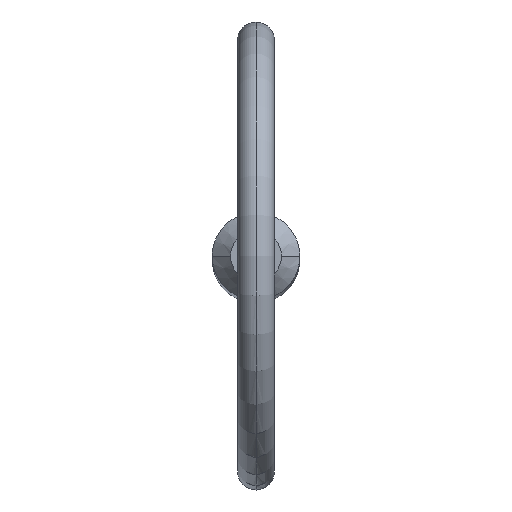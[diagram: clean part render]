
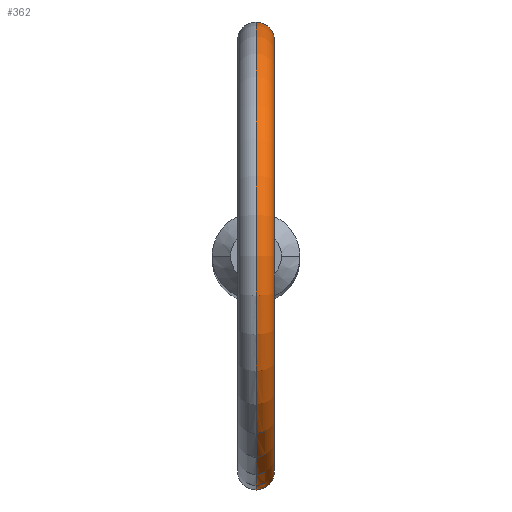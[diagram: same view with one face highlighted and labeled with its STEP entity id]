
A CAD part, top view. The second image highlights one B-rep face of the part: STEP entity #362.
In plain terms, the highlighted toroidal (fillet/blend) face has major radius 11.7 mm and minor radius 1 mm.
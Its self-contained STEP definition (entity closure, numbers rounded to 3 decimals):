
#6 = CARTESIAN_POINT ( 'NONE',  ( 0., 2.38, 86.625 ) ) ;
#11 = CARTESIAN_POINT ( 'NONE',  ( 0.513, -2.327, 86.748 ) ) ;
#13 = AXIS2_PLACEMENT_3D ( 'NONE', #179, #17, #99 ) ;
#15 = VERTEX_POINT ( 'NONE', #261 ) ;
#17 = DIRECTION ( 'NONE',  ( 1., 0., 0. ) ) ;
#25 = CARTESIAN_POINT ( 'NONE',  ( 0.996, 2.162, 87.764 ) ) ;
#38 = CARTESIAN_POINT ( 'NONE',  ( 0., -2.38, 88.668 ) ) ;
#43 = FACE_OUTER_BOUND ( 'NONE', #199, .T. ) ;
#45 = EDGE_CURVE ( 'NONE', #194, #15, #201, .T. ) ;
#46 = CARTESIAN_POINT ( 'NONE',  ( 0.268, -2.368, 86.651 ) ) ;
#47 = DIRECTION ( 'NONE',  ( 1., 0., 0. ) ) ;
#53 = CARTESIAN_POINT ( 'NONE',  ( 0.884, 2.21, 87.117 ) ) ;
#67 = CARTESIAN_POINT ( 'NONE',  ( 0.793, 2.246, 88.253 ) ) ;
#83 = TOROIDAL_SURFACE ( 'NONE', #13, 11.7, 1. ) ;
#86 = CARTESIAN_POINT ( 'NONE',  ( 0.625, -2.299, 86.821 ) ) ;
#87 = CARTESIAN_POINT ( 'NONE',  ( 0.981, -2.169, 87.364 ) ) ;
#99 = DIRECTION ( 'NONE',  ( 0., 0., -1. ) ) ;
#101 = CARTESIAN_POINT ( 'NONE',  ( 0., 2.38, 88.668 ) ) ;
#102 = ORIENTED_EDGE ( 'NONE', *, *, #186, .F. ) ;
#131 = CARTESIAN_POINT ( 'NONE',  ( 0.268, -2.368, 88.637 ) ) ;
#133 = CARTESIAN_POINT ( 'NONE',  ( 0., 0., 99.1 ) ) ;
#153 = DIRECTION ( 'NONE',  ( 0., 0., -1. ) ) ;
#161 = EDGE_CURVE ( 'NONE', #445, #163, #359, .T. ) ;
#163 = VERTEX_POINT ( 'NONE', #399 ) ;
#169 = CARTESIAN_POINT ( 'NONE',  ( 0.811, -2.24, 87.006 ) ) ;
#170 = B_SPLINE_CURVE_WITH_KNOTS ( 'NONE', 3,
 ( #38, #271, #131, #308, #337, #305, #206, #239, #307, #412, #87, #336, #169, #86, #11, #46, #204, #341 ),
 .UNSPECIFIED., .F., .F.,
 ( 4, 2, 2, 2, 2, 2, 2, 2, 4 ),
 ( 0.003, 0.003, 0.003, 0.004, 0.004, 0.005, 0.005, 0.005, 0.006 ),
 .UNSPECIFIED. ) ;
#172 = CARTESIAN_POINT ( 'NONE',  ( 0.625, 2.299, 86.821 ) ) ;
#179 = CARTESIAN_POINT ( 'NONE',  ( 0., 0., 99.1 ) ) ;
#180 = CARTESIAN_POINT ( 'NONE',  ( 0.509, 2.328, 88.524 ) ) ;
#186 = EDGE_CURVE ( 'NONE', #163, #15, #170, .T. ) ;
#187 = CARTESIAN_POINT ( 'NONE',  ( 0.966, 2.176, 87.897 ) ) ;
#188 = ORIENTED_EDGE ( 'NONE', *, *, #45, .T. ) ;
#190 = CARTESIAN_POINT ( 'NONE',  ( 0., 0., 99.1 ) ) ;
#194 = VERTEX_POINT ( 'NONE', #6 ) ;
#199 = EDGE_LOOP ( 'NONE', ( #228, #188, #102, #237 ) ) ;
#201 = CIRCLE ( 'NONE', #230, 12.7 ) ;
#204 = CARTESIAN_POINT ( 'NONE',  ( 0.133, -2.38, 86.625 ) ) ;
#206 = CARTESIAN_POINT ( 'NONE',  ( 0.865, -2.218, 88.14 ) ) ;
#228 = ORIENTED_EDGE ( 'NONE', *, *, #467, .F. ) ;
#230 = AXIS2_PLACEMENT_3D ( 'NONE', #190, #471, #153 ) ;
#237 = ORIENTED_EDGE ( 'NONE', *, *, #161, .F. ) ;
#239 = CARTESIAN_POINT ( 'NONE',  ( 0.966, -2.176, 87.897 ) ) ;
#254 = CARTESIAN_POINT ( 'NONE',  ( 0.134, 2.38, 88.668 ) ) ;
#258 = CARTESIAN_POINT ( 'NONE',  ( 0.614, 2.301, 88.445 ) ) ;
#261 = CARTESIAN_POINT ( 'NONE',  ( 0., -2.38, 86.625 ) ) ;
#265 = AXIS2_PLACEMENT_3D ( 'NONE', #133, #47, #450 ) ;
#271 = CARTESIAN_POINT ( 'NONE',  ( 0.134, -2.38, 88.668 ) ) ;
#277 = CARTESIAN_POINT ( 'NONE',  ( 0.267, 2.368, 86.65 ) ) ;
#305 = CARTESIAN_POINT ( 'NONE',  ( 0.793, -2.246, 88.252 ) ) ;
#307 = CARTESIAN_POINT ( 'NONE',  ( 0.996, -2.162, 87.764 ) ) ;
#308 = CARTESIAN_POINT ( 'NONE',  ( 0.508, -2.328, 88.524 ) ) ;
#319 = B_SPLINE_CURVE_WITH_KNOTS ( 'NONE', 3,
 ( #386, #414, #277, #381, #172, #418, #53, #460, #390, #25, #187, #321, #67, #258, #180, #425, #254, #430 ),
 .UNSPECIFIED., .F., .F.,
 ( 4, 2, 2, 2, 2, 2, 2, 2, 4 ),
 ( 0.001, 0.001, 0.001, 0.002, 0.002, 0.003, 0.003, 0.003, 0.004 ),
 .UNSPECIFIED. ) ;
#321 = CARTESIAN_POINT ( 'NONE',  ( 0.864, 2.218, 88.141 ) ) ;
#336 = CARTESIAN_POINT ( 'NONE',  ( 0.885, -2.21, 87.117 ) ) ;
#337 = CARTESIAN_POINT ( 'NONE',  ( 0.615, -2.301, 88.444 ) ) ;
#341 = CARTESIAN_POINT ( 'NONE',  ( 0., -2.38, 86.625 ) ) ;
#359 = CIRCLE ( 'NONE', #265, 10.7 ) ;
#362 = ADVANCED_FACE ( 'NONE', ( #43 ), #83, .T. ) ;
#381 = CARTESIAN_POINT ( 'NONE',  ( 0.513, 2.327, 86.749 ) ) ;
#386 = CARTESIAN_POINT ( 'NONE',  ( 0., 2.38, 86.625 ) ) ;
#390 = CARTESIAN_POINT ( 'NONE',  ( 1.003, 2.158, 87.497 ) ) ;
#399 = CARTESIAN_POINT ( 'NONE',  ( 0., -2.38, 88.668 ) ) ;
#412 = CARTESIAN_POINT ( 'NONE',  ( 1.003, -2.158, 87.499 ) ) ;
#414 = CARTESIAN_POINT ( 'NONE',  ( 0.133, 2.38, 86.625 ) ) ;
#418 = CARTESIAN_POINT ( 'NONE',  ( 0.811, 2.24, 87.006 ) ) ;
#425 = CARTESIAN_POINT ( 'NONE',  ( 0.267, 2.368, 88.637 ) ) ;
#430 = CARTESIAN_POINT ( 'NONE',  ( 0., 2.38, 88.668 ) ) ;
#445 = VERTEX_POINT ( 'NONE', #101 ) ;
#450 = DIRECTION ( 'NONE',  ( 0., 0., -1. ) ) ;
#460 = CARTESIAN_POINT ( 'NONE',  ( 0.981, 2.169, 87.362 ) ) ;
#467 = EDGE_CURVE ( 'NONE', #194, #445, #319, .T. ) ;
#471 = DIRECTION ( 'NONE',  ( 1., 0., 0. ) ) ;
